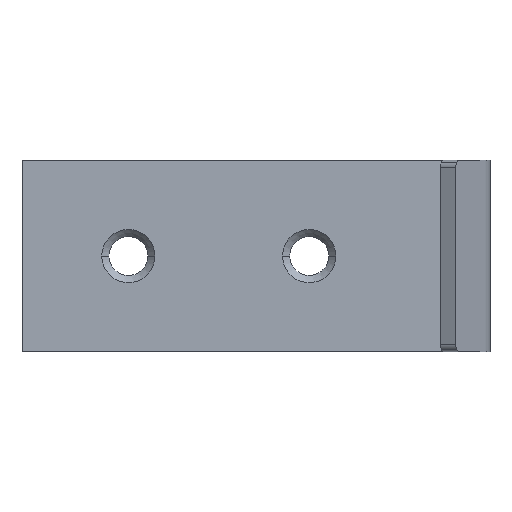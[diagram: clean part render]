
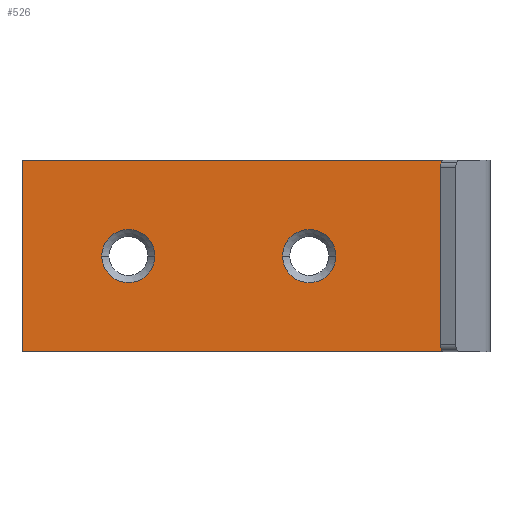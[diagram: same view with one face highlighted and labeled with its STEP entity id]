
A CAD part, top view. The second image highlights one B-rep face of the part: STEP entity #526.
In plain terms, the highlighted planar face has unit normal (0, 0, 1).
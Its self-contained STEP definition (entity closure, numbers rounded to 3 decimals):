
#193=CARTESIAN_POINT('',(-4.5,-4.0,1.5));
#194=VERTEX_POINT('',#193);
#202=CARTESIAN_POINT('',(-4.5,23.0,1.5));
#203=VERTEX_POINT('',#202);
#204=CARTESIAN_POINT('',(-4.5,23.0,1.5));
#205=DIRECTION('',(0.0,-1.0,0.0));
#206=VECTOR('',#205,27.0);
#207=LINE('',#204,#206);
#208=EDGE_CURVE('',#203,#194,#207,.T.);
#351=CARTESIAN_POINT('',(37.25,9.5,1.5));
#352=VERTEX_POINT('',#351);
#366=CARTESIAN_POINT('',(44.75,9.5,1.5));
#367=VERTEX_POINT('',#366);
#374=CARTESIAN_POINT('',(41.0,9.5,1.5));
#375=DIRECTION('',(0.0,0.0,1.0));
#376=DIRECTION('',(-1.0,0.0,0.0));
#377=AXIS2_PLACEMENT_3D('',#374,#375,#376);
#378=CIRCLE('',#377,3.75);
#379=EDGE_CURVE('',#367,#352,#378,.T.);
#431=CARTESIAN_POINT('',(11.75,9.5,1.5));
#432=VERTEX_POINT('',#431);
#446=CARTESIAN_POINT('',(19.25,9.5,1.5));
#447=VERTEX_POINT('',#446);
#454=CARTESIAN_POINT('',(15.5,9.5,1.5));
#455=DIRECTION('',(0.0,0.0,1.0));
#456=DIRECTION('',(-1.0,0.0,0.0));
#457=AXIS2_PLACEMENT_3D('',#454,#455,#456);
#458=CIRCLE('',#457,3.75);
#459=EDGE_CURVE('',#447,#432,#458,.T.);
#470=CARTESIAN_POINT('',(15.5,9.5,1.5));
#471=DIRECTION('',(0.0,0.0,1.0));
#472=DIRECTION('',(-1.0,0.0,0.0));
#473=AXIS2_PLACEMENT_3D('',#470,#471,#472);
#474=CIRCLE('',#473,3.75);
#475=EDGE_CURVE('',#432,#447,#474,.T.);
#482=CARTESIAN_POINT('',(0.0,0.,1.5));
#483=DIRECTION('',(0.0,0.0,1.0));
#484=DIRECTION('',(1.0,0.0,0.0));
#485=AXIS2_PLACEMENT_3D('',#482,#483,#484);
#486=PLANE('',#485);
#487=ORIENTED_EDGE('',*,*,#208,.T.);
#488=CARTESIAN_POINT('',(56.,-4.0,1.5));
#489=VERTEX_POINT('',#488);
#490=CARTESIAN_POINT('',(56.,-4.0,1.5));
#491=DIRECTION('',(-1.0,0.0,0.0));
#492=VECTOR('',#491,60.5);
#493=LINE('',#490,#492);
#494=EDGE_CURVE('',#489,#194,#493,.T.);
#495=ORIENTED_EDGE('',*,*,#494,.F.);
#496=CARTESIAN_POINT('',(56.0,23.,1.5));
#497=VERTEX_POINT('',#496);
#498=CARTESIAN_POINT('',(56.0,23.,1.5));
#499=DIRECTION('',(0.0,-1.0,0.0));
#500=VECTOR('',#499,27.);
#501=LINE('',#498,#500);
#502=EDGE_CURVE('',#497,#489,#501,.T.);
#503=ORIENTED_EDGE('',*,*,#502,.F.);
#504=CARTESIAN_POINT('',(-4.5,23.0,1.5));
#505=DIRECTION('',(1.0,0.0,0.0));
#506=VECTOR('',#505,60.5);
#507=LINE('',#504,#506);
#508=EDGE_CURVE('',#203,#497,#507,.T.);
#509=ORIENTED_EDGE('',*,*,#508,.F.);
#510=EDGE_LOOP('',(#487,#495,#503,#509));
#511=FACE_OUTER_BOUND('',#510,.T.);
#512=ORIENTED_EDGE('',*,*,#379,.F.);
#513=CARTESIAN_POINT('',(41.0,9.5,1.5));
#514=DIRECTION('',(0.0,0.0,1.0));
#515=DIRECTION('',(-1.0,0.0,0.0));
#516=AXIS2_PLACEMENT_3D('',#513,#514,#515);
#517=CIRCLE('',#516,3.75);
#518=EDGE_CURVE('',#352,#367,#517,.T.);
#519=ORIENTED_EDGE('',*,*,#518,.F.);
#520=EDGE_LOOP('',(#512,#519));
#521=FACE_BOUND('',#520,.T.);
#522=ORIENTED_EDGE('',*,*,#459,.F.);
#523=ORIENTED_EDGE('',*,*,#475,.F.);
#524=EDGE_LOOP('',(#522,#523));
#525=FACE_BOUND('',#524,.T.);
#526=ADVANCED_FACE('',(#511,#521,#525),#486,.T.);
